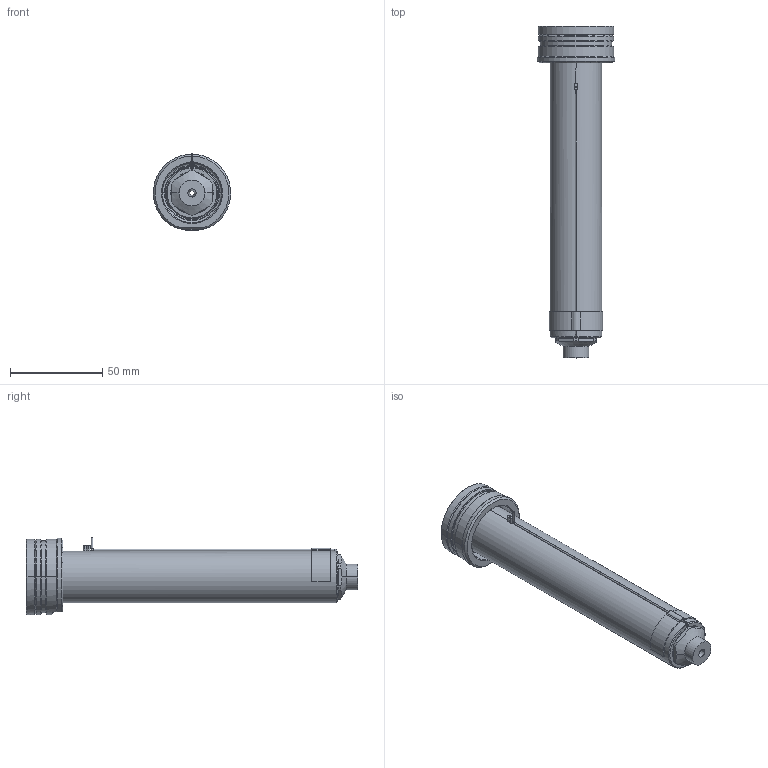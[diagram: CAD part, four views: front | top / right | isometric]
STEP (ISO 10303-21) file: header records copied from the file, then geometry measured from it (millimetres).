
FILE_DESCRIPTION((''),'2;1');
FILE_NAME('EO10_SG_SG_160_SW','2024-02-19T12:24:46',('sundharh'),(''),'CREO PARAMETRIC BY PTC INC, 2023154','CREO PARAMETRIC BY PTC INC, 2023154','');
FILE_SCHEMA(('CONFIG_CONTROL_DESIGN'));
Length unit declared in the file: millimetre
Products named in the file (1): EO10_SG_SG_160_SW
Bounding box: 41.85 x 180 x 42.02 mm (x, y, z)
Volume: 104779.8 mm3; surface area: 27668.8 mm2
Topology: 1 solids, 1 shells, 159 faces, 399 edges, 245 vertices
Faces by surface type: cylinder 63, plane 44, cone 29, torus 17, bspline 3, sphere 3
Entity records: 5434 total; most frequent: CARTESIAN_POINT 1557, DIRECTION 849, ORIENTED_EDGE 786, EDGE_CURVE 393, AXIS2_PLACEMENT_3D 350, VERTEX_POINT 245, CIRCLE 194, EDGE_LOOP 174
